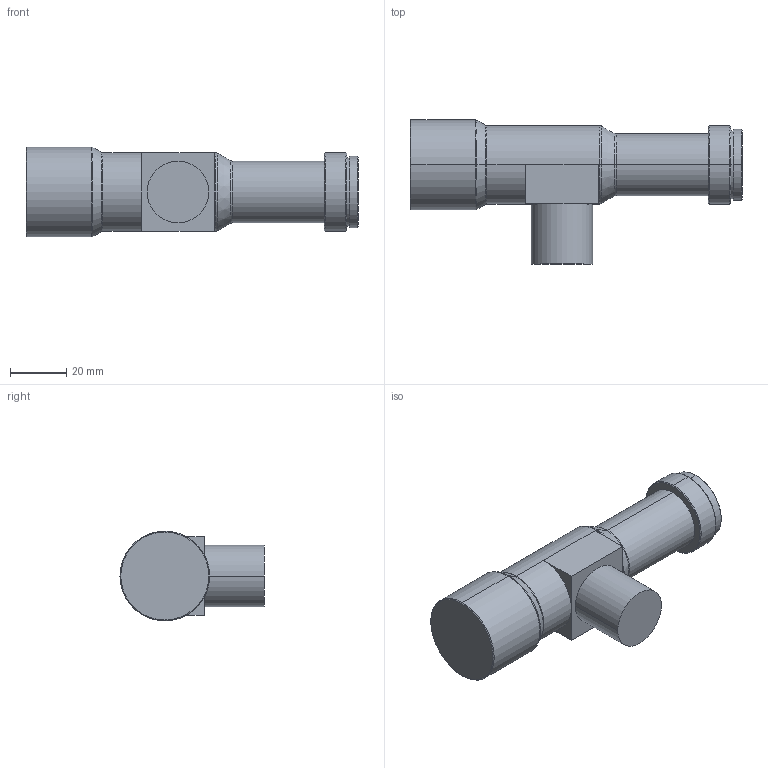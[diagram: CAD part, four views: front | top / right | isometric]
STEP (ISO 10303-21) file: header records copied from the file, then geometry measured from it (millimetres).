
FILE_DESCRIPTION (( 'STEP AP203' ), '1' );
FILE_NAME ('WWH25-108CTV3.STEP', '2021-05-14T08:40:50', ( 'Windows User' ), ( 'P R C' ), 'SwSTEP 2.0', 'SolidWorks 2017', '' );
FILE_SCHEMA (( 'CONFIG_CONTROL_DESIGN' ));
Length unit declared in the file: millimetre
Products named in the file (1): WWH25-108CTV3
Bounding box: 118.4 x 51.4 x 32 mm (x, y, z)
Volume: 79059.9 mm3; surface area: 13762.6 mm2
Topology: 1 solids, 1 shells, 48 faces, 96 edges, 54 vertices
Faces by surface type: cylinder 15, plane 13, cone 12, torus 8
Entity records: 1313 total; most frequent: DIRECTION 250, CARTESIAN_POINT 199, ORIENTED_EDGE 192, AXIS2_PLACEMENT_3D 105, EDGE_CURVE 96, CIRCLE 56, VERTEX_POINT 54, EDGE_LOOP 52
